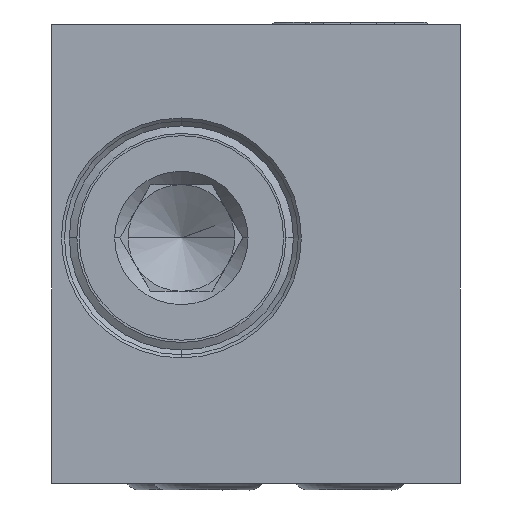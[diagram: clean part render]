
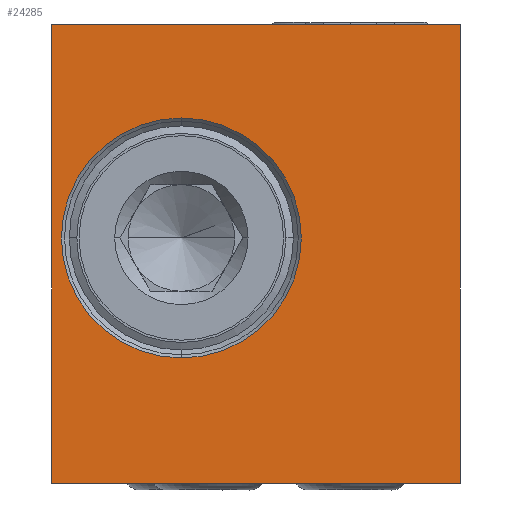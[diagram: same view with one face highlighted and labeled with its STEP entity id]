
A CAD part, left-side view. The second image highlights one B-rep face of the part: STEP entity #24285.
In plain terms, the highlighted planar face has unit normal (-1, 0, 0).
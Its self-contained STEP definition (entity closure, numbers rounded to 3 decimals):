
#4557=DIRECTION('',(0.,0.,1.));
#4558=VECTOR('',#4557,25.8);
#4559=CARTESIAN_POINT('',(-38.,11.5,-12.9));
#4560=LINE('',#4559,#4558);
#4561=DIRECTION('',(0.,-1.,0.));
#4562=VECTOR('',#4561,23.);
#4563=CARTESIAN_POINT('',(-38.,11.5,12.9));
#4564=LINE('',#4563,#4562);
#4565=DIRECTION('',(0.,0.,-1.));
#4566=VECTOR('',#4565,25.8);
#4567=CARTESIAN_POINT('',(-38.,-11.5,12.9));
#4568=LINE('',#4567,#4566);
#4569=DIRECTION('',(0.,1.,0.));
#4570=VECTOR('',#4569,23.);
#4571=CARTESIAN_POINT('',(-38.,-11.5,-12.9));
#4572=LINE('',#4571,#4570);
#4573=CARTESIAN_POINT('',(-38.,4.2,0.9));
#4574=DIRECTION('',(-1.,0.,0.));
#4575=DIRECTION('',(0.,0.,-1.));
#4576=AXIS2_PLACEMENT_3D('',#4573,#4574,#4575);
#4578=CARTESIAN_POINT('',(-38.,4.2,0.9));
#4579=DIRECTION('',(-1.,0.,0.));
#4580=DIRECTION('',(0.,0.,1.));
#4581=AXIS2_PLACEMENT_3D('',#4578,#4579,#4580);
#16579=CARTESIAN_POINT('',(-38.,11.5,12.9));
#16580=VERTEX_POINT('',#16579);
#16581=CARTESIAN_POINT('',(-38.,11.5,-12.9));
#16582=VERTEX_POINT('',#16581);
#16583=CARTESIAN_POINT('',(-38.,-11.5,12.9));
#16584=VERTEX_POINT('',#16583);
#16605=CARTESIAN_POINT('',(-38.,-11.5,-12.9));
#16606=VERTEX_POINT('',#16605);
#16651=CARTESIAN_POINT('',(-38.,4.2,-5.85));
#16652=CARTESIAN_POINT('',(-38.,4.2,7.65));
#16653=VERTEX_POINT('',#16651);
#16654=VERTEX_POINT('',#16652);
#24266=CARTESIAN_POINT('',(-38.,0.,0.));
#24267=DIRECTION('',(-1.,0.,0.));
#24268=DIRECTION('',(0.,-1.,0.));
#24269=AXIS2_PLACEMENT_3D('',#24266,#24267,#24268);
#24270=PLANE('',#24269);
#24271=ORIENTED_EDGE('',*,*,#24259,.T.);
#24272=ORIENTED_EDGE('',*,*,#21763,.T.);
#24274=ORIENTED_EDGE('',*,*,#24273,.T.);
#24276=ORIENTED_EDGE('',*,*,#24275,.T.);
#24277=EDGE_LOOP('',(#24271,#24272,#24274,#24276));
#24278=FACE_OUTER_BOUND('',#24277,.F.);
#24280=ORIENTED_EDGE('',*,*,#24279,.T.);
#24282=ORIENTED_EDGE('',*,*,#24281,.T.);
#24283=EDGE_LOOP('',(#24280,#24282));
#24284=FACE_BOUND('',#24283,.F.);
#24285=ADVANCED_FACE('',(#24278,#24284),#24270,.T.);
#4577=CIRCLE('',#4576,6.75);
#4582=CIRCLE('',#4581,6.75);
#21763=EDGE_CURVE('',#16580,#16584,#4564,.T.);
#24259=EDGE_CURVE('',#16582,#16580,#4560,.T.);
#24273=EDGE_CURVE('',#16584,#16606,#4568,.T.);
#24275=EDGE_CURVE('',#16606,#16582,#4572,.T.);
#24279=EDGE_CURVE('',#16653,#16654,#4577,.T.);
#24281=EDGE_CURVE('',#16654,#16653,#4582,.T.);
